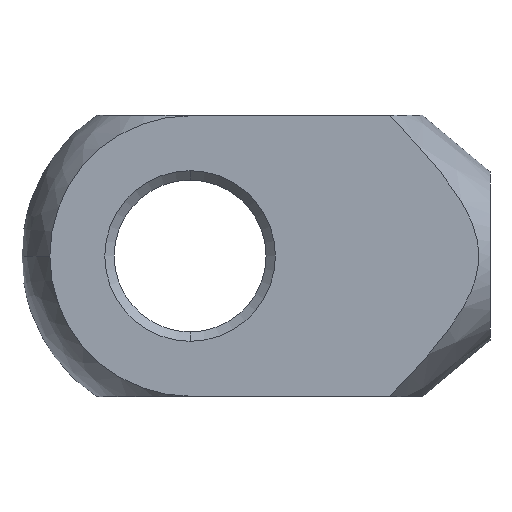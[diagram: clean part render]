
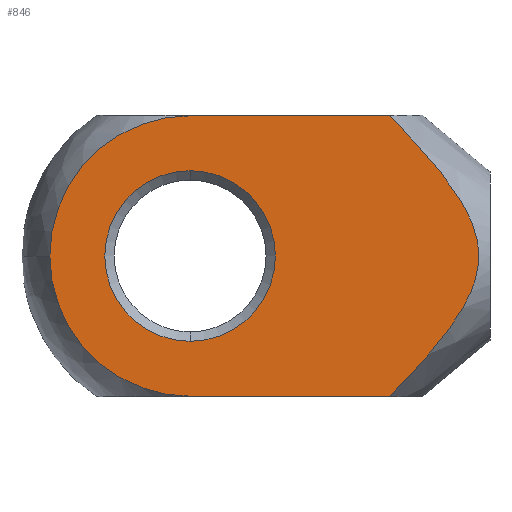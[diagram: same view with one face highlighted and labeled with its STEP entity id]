
A CAD part, left-side view. The second image highlights one B-rep face of the part: STEP entity #846.
In plain terms, the highlighted planar face has unit normal (-1, 0, 0).
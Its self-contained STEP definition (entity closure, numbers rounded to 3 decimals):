
#12 = EDGE_CURVE ( 'NONE', #410, #844, #192, .T. ) ;
#20 = DIRECTION ( 'NONE',  ( 0., 0., -1. ) ) ;
#22 = DIRECTION ( 'NONE',  ( 1., 0., 0. ) ) ;
#49 = CARTESIAN_POINT ( 'NONE',  ( -5., 16., 4.55 ) ) ;
#50 = CARTESIAN_POINT ( 'NONE',  ( -5., 0.976, 1.841 ) ) ;
#55 = ORIENTED_EDGE ( 'NONE', *, *, #184, .F. ) ;
#56 = CARTESIAN_POINT ( 'NONE',  ( -5., 3.291, 5.279 ) ) ;
#64 = CARTESIAN_POINT ( 'NONE',  ( -5., 1.062, -2.022 ) ) ;
#97 = CARTESIAN_POINT ( 'NONE',  ( -5., 16., -7.483 ) ) ;
#98 = AXIS2_PLACEMENT_3D ( 'NONE', #513, #214, #288 ) ;
#124 = DIRECTION ( 'NONE',  ( -1., 0., 0. ) ) ;
#125 = FACE_OUTER_BOUND ( 'NONE', #609, .T. ) ;
#133 = CARTESIAN_POINT ( 'NONE',  ( -5., 0.597, -0.389 ) ) ;
#138 = CARTESIAN_POINT ( 'NONE',  ( -5., 4.308, -6.402 ) ) ;
#143 = CARTESIAN_POINT ( 'NONE',  ( -5., 3.295, -5.283 ) ) ;
#146 = CARTESIAN_POINT ( 'NONE',  ( -5., 23.483, 0. ) ) ;
#184 = EDGE_CURVE ( 'NONE', #440, #354, #888, .T. ) ;
#191 = DIRECTION ( 'NONE',  ( 0., 0., 1. ) ) ;
#192 = LINE ( 'NONE', #714, #696 ) ;
#193 = CARTESIAN_POINT ( 'NONE',  ( -5., 1.306, -2.532 ) ) ;
#200 = CARTESIAN_POINT ( 'NONE',  ( -5., 5.363, -7.483 ) ) ;
#214 = DIRECTION ( 'NONE',  ( 1., 0., 0. ) ) ;
#216 = ORIENTED_EDGE ( 'NONE', *, *, #330, .F. ) ;
#235 = PLANE ( 'NONE',  #384 ) ;
#247 = EDGE_CURVE ( 'NONE', #896, #671, #475, .T. ) ;
#262 = ORIENTED_EDGE ( 'NONE', *, *, #247, .F. ) ;
#265 = CARTESIAN_POINT ( 'NONE',  ( -5., 1.303, 2.527 ) ) ;
#284 = DIRECTION ( 'NONE',  ( 0., 1., 0. ) ) ;
#288 = DIRECTION ( 'NONE',  ( 0., 0., -1. ) ) ;
#299 = CARTESIAN_POINT ( 'NONE',  ( -5., 16., -4.55 ) ) ;
#302 = CARTESIAN_POINT ( 'NONE',  ( -5., 0., 7.5 ) ) ;
#304 = FACE_BOUND ( 'NONE', #551, .T. ) ;
#327 = CARTESIAN_POINT ( 'NONE',  ( -5., 16., 0. ) ) ;
#330 = EDGE_CURVE ( 'NONE', #380, #410, #570, .T. ) ;
#337 = CARTESIAN_POINT ( 'NONE',  ( -5., 0.839, 1.486 ) ) ;
#340 = CARTESIAN_POINT ( 'NONE',  ( -5., 1.896, 3.489 ) ) ;
#343 = CARTESIAN_POINT ( 'NONE',  ( -5., 0.659, 0.753 ) ) ;
#347 = CARTESIAN_POINT ( 'NONE',  ( -5., 5.363, 7.483 ) ) ;
#354 = VERTEX_POINT ( 'NONE', #636 ) ;
#357 = AXIS2_PLACEMENT_3D ( 'NONE', #327, #476, #403 ) ;
#380 = VERTEX_POINT ( 'NONE', #490 ) ;
#384 = AXIS2_PLACEMENT_3D ( 'NONE', #302, #22, #20 ) ;
#403 = DIRECTION ( 'NONE',  ( 0., 0., 1. ) ) ;
#404 = CARTESIAN_POINT ( 'NONE',  ( -5., 16., 0. ) ) ;
#406 = AXIS2_PLACEMENT_3D ( 'NONE', #404, #124, #191 ) ;
#410 = VERTEX_POINT ( 'NONE', #725 ) ;
#411 = EDGE_CURVE ( 'NONE', #844, #440, #559, .T. ) ;
#416 = CARTESIAN_POINT ( 'NONE',  ( -5., 1.9, -3.495 ) ) ;
#421 = CARTESIAN_POINT ( 'NONE',  ( -5., 2.798, 4.702 ) ) ;
#424 = CARTESIAN_POINT ( 'NONE',  ( -5., 0.853, -1.493 ) ) ;
#440 = VERTEX_POINT ( 'NONE', #146 ) ;
#475 = CIRCLE ( 'NONE', #406, 4.55 ) ;
#476 = DIRECTION ( 'NONE',  ( -1., 0., 0. ) ) ;
#490 = CARTESIAN_POINT ( 'NONE',  ( -5., 5.363, 7.483 ) ) ;
#497 = CARTESIAN_POINT ( 'NONE',  ( -5., 1.491, 2.854 ) ) ;
#513 = CARTESIAN_POINT ( 'NONE',  ( -5., 16., 0. ) ) ;
#542 = ORIENTED_EDGE ( 'NONE', *, *, #674, .F. ) ;
#551 = EDGE_LOOP ( 'NONE', ( #542, #262 ) ) ;
#559 = CIRCLE ( 'NONE', #98, 7.483 ) ;
#562 = CARTESIAN_POINT ( 'NONE',  ( -5., 0.696, 0.939 ) ) ;
#565 = CARTESIAN_POINT ( 'NONE',  ( -5., 0.65, -0.763 ) ) ;
#570 = B_SPLINE_CURVE_WITH_KNOTS ( 'NONE', 3,
 ( #347, #927, #933, #56, #421, #792, #340, #497, #265, #50, #337, #562, #343, #862, #790, #133, #565, #937, #424, #637, #64, #193, #574, #416, #800, #872, #143, #138, #720, #200 ),
 .UNSPECIFIED., .F., .F.,
 ( 4, 2, 2, 2, 2, 2, 2, 2, 2, 2, 2, 2, 2, 2, 4 ),
 ( 0., 0.002, 0.005, 0.006, 0.007, 0.008, 0.009, 0.009, 0.01, 0.011, 0.011, 0.012, 0.014, 0.016, 0.018 ),
 .UNSPECIFIED. ) ;
#574 = CARTESIAN_POINT ( 'NONE',  ( -5., 1.494, -2.859 ) ) ;
#609 = EDGE_LOOP ( 'NONE', ( #216, #715, #55, #934, #871 ) ) ;
#636 = CARTESIAN_POINT ( 'NONE',  ( -5., 16., 7.483 ) ) ;
#637 = CARTESIAN_POINT ( 'NONE',  ( -5., 0.987, -1.849 ) ) ;
#649 = AXIS2_PLACEMENT_3D ( 'NONE', #759, #845, #840 ) ;
#667 = DIRECTION ( 'NONE',  ( 0., -1., 0. ) ) ;
#671 = VERTEX_POINT ( 'NONE', #49 ) ;
#674 = EDGE_CURVE ( 'NONE', #671, #896, #700, .T. ) ;
#696 = VECTOR ( 'NONE', #284, 1000. ) ;
#700 = CIRCLE ( 'NONE', #357, 4.55 ) ;
#714 = CARTESIAN_POINT ( 'NONE',  ( -5., 0., -7.483 ) ) ;
#715 = ORIENTED_EDGE ( 'NONE', *, *, #850, .F. ) ;
#720 = CARTESIAN_POINT ( 'NONE',  ( -5., 4.831, -6.946 ) ) ;
#725 = CARTESIAN_POINT ( 'NONE',  ( -5., 5.363, -7.483 ) ) ;
#726 = VECTOR ( 'NONE', #667, 1000. ) ;
#759 = CARTESIAN_POINT ( 'NONE',  ( -5., 16., 0. ) ) ;
#790 = CARTESIAN_POINT ( 'NONE',  ( -5., 0.596, 0.185 ) ) ;
#792 = CARTESIAN_POINT ( 'NONE',  ( -5., 2.114, 3.797 ) ) ;
#800 = CARTESIAN_POINT ( 'NONE',  ( -5., 2.12, -3.805 ) ) ;
#840 = DIRECTION ( 'NONE',  ( 0., 0., -1. ) ) ;
#844 = VERTEX_POINT ( 'NONE', #97 ) ;
#845 = DIRECTION ( 'NONE',  ( 1., 0., 0. ) ) ;
#846 = ADVANCED_FACE ( 'NONE', ( #304, #125 ), #235, .F. ) ;
#850 = EDGE_CURVE ( 'NONE', #354, #380, #880, .T. ) ;
#862 = CARTESIAN_POINT ( 'NONE',  ( -5., 0.609, 0.376 ) ) ;
#871 = ORIENTED_EDGE ( 'NONE', *, *, #12, .F. ) ;
#872 = CARTESIAN_POINT ( 'NONE',  ( -5., 2.804, -4.71 ) ) ;
#880 = LINE ( 'NONE', #891, #726 ) ;
#888 = CIRCLE ( 'NONE', #649, 7.483 ) ;
#891 = CARTESIAN_POINT ( 'NONE',  ( -5., 0., 7.483 ) ) ;
#896 = VERTEX_POINT ( 'NONE', #299 ) ;
#927 = CARTESIAN_POINT ( 'NONE',  ( -5., 4.83, 6.946 ) ) ;
#933 = CARTESIAN_POINT ( 'NONE',  ( -5., 4.306, 6.4 ) ) ;
#934 = ORIENTED_EDGE ( 'NONE', *, *, #411, .F. ) ;
#937 = CARTESIAN_POINT ( 'NONE',  ( -5., 0.794, -1.311 ) ) ;
